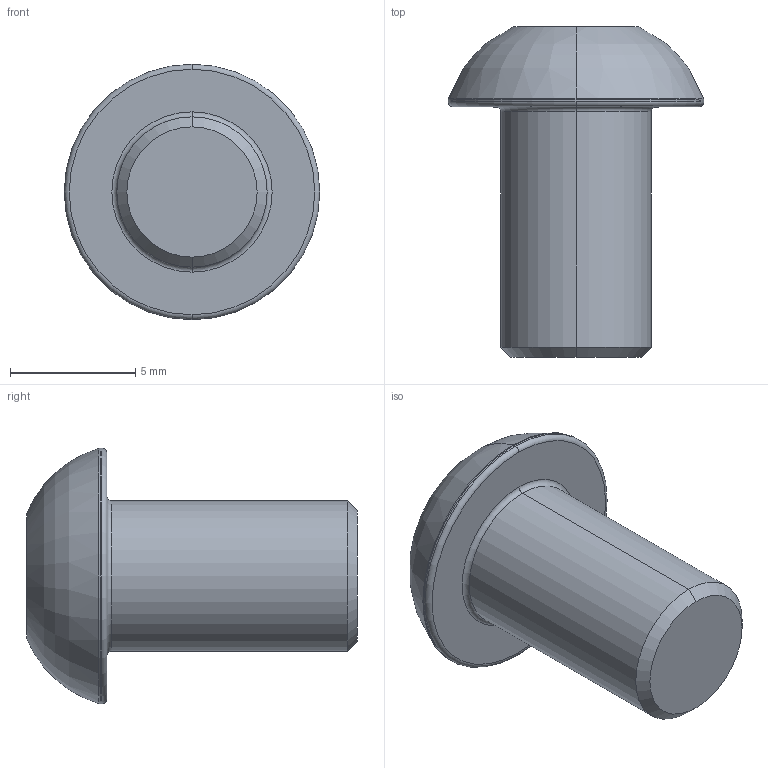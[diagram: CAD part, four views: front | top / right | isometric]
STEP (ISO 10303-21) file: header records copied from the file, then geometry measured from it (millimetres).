
FILE_DESCRIPTION (( 'STEP AP203' ), '1' );
FILE_NAME ('LGDD-304-M6x10.STEP', '2026-08-08T04:42:34', ( '' ), ( '' ), 'SwSTEP 2.0', 'SolidWorks 2020', '' );
FILE_SCHEMA (( 'CONFIG_CONTROL_DESIGN' ));
Length unit declared in the file: millimetre
Products named in the file (1): LGDD-304-M6x10
Bounding box: 10.2 x 13.2 x 10.2 mm (x, y, z)
Volume: 432.2 mm3; surface area: 430.2 mm2
Topology: 1 solids, 1 shells, 31 faces, 59 edges, 32 vertices
Faces by surface type: plane 10, cone 9, torus 8, cylinder 4
Entity records: 860 total; most frequent: CARTESIAN_POINT 150, DIRECTION 149, ORIENTED_EDGE 118, AXIS2_PLACEMENT_3D 65, EDGE_CURVE 59, CIRCLE 33, EDGE_LOOP 33, VERTEX_POINT 32
